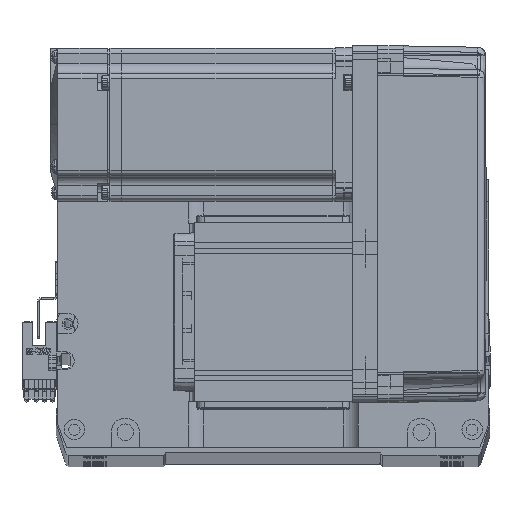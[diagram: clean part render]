
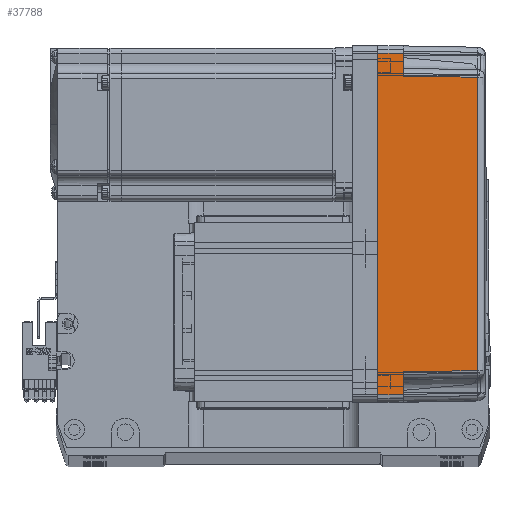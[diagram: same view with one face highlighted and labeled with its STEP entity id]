
A CAD part, top view. The second image highlights one B-rep face of the part: STEP entity #37788.
In plain terms, the highlighted planar face has unit normal (0.018, 0, 1) as drawn and (0, -1, 0.017) by its records, which use the part's own axes.
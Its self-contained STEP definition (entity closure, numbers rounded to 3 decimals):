
#1311 = VECTOR ( 'NONE', #25634, 1000. ) ;
#2130 = LINE ( 'NONE', #47197, #1311 ) ;
#2901 = PLANE ( 'NONE',  #39842 ) ;
#4409 = CARTESIAN_POINT ( 'NONE',  ( -67., -36., 0. ) ) ;
#5795 = DIRECTION ( 'NONE',  ( -1., 0., 0. ) ) ;
#5860 = DIRECTION ( 'NONE',  ( 0.017, 0.017, 1. ) ) ;
#8706 = ORIENTED_EDGE ( 'NONE', *, *, #38529, .F. ) ;
#9979 = EDGE_CURVE ( 'NONE', #25832, #21481, #37326, .T. ) ;
#10510 = DIRECTION ( 'NONE',  ( -0.017, -0.017, -1. ) ) ;
#11776 = VERTEX_POINT ( 'NONE', #24142 ) ;
#12049 = VECTOR ( 'NONE', #64057, 1000. ) ;
#13278 = VECTOR ( 'NONE', #10510, 1000. ) ;
#14089 = CARTESIAN_POINT ( 'NONE',  ( 58., -35.825, 10. ) ) ;
#15241 = CARTESIAN_POINT ( 'NONE',  ( 70., -35.825, 10. ) ) ;
#17927 = CARTESIAN_POINT ( 'NONE',  ( 70., -35.825, 10. ) ) ;
#18471 = VECTOR ( 'NONE', #46880, 1000. ) ;
#19734 = CARTESIAN_POINT ( 'NONE',  ( 57.495, -35.32, 38.985 ) ) ;
#21481 = VERTEX_POINT ( 'NONE', #14089 ) ;
#21605 = LINE ( 'NONE', #26383, #13278 ) ;
#21792 = ORIENTED_EDGE ( 'NONE', *, *, #37518, .T. ) ;
#23613 = VECTOR ( 'NONE', #5795, 1000. ) ;
#24142 = CARTESIAN_POINT ( 'NONE',  ( -66.826, -35.825, 10. ) ) ;
#25457 = ORIENTED_EDGE ( 'NONE', *, *, #66536, .T. ) ;
#25634 = DIRECTION ( 'NONE',  ( -0.017, 0.017, 1. ) ) ;
#25832 = VERTEX_POINT ( 'NONE', #32042 ) ;
#26383 = CARTESIAN_POINT ( 'NONE',  ( -57.495, -35.32, 38.985 ) ) ;
#26495 = CARTESIAN_POINT ( 'NONE',  ( -19.165, -35.316, 39.181 ) ) ;
#28988 = EDGE_LOOP ( 'NONE', ( #25457, #64066, #21792, #54366, #50915, #59356, #37335, #8706 ) ) ;
#29079 = CARTESIAN_POINT ( 'NONE',  ( -57.495, -35.32, 38.985 ) ) ;
#30392 = VERTEX_POINT ( 'NONE', #29079 ) ;
#31656 = CARTESIAN_POINT ( 'NONE',  ( 57.495, -35.32, 38.985 ) ) ;
#32042 = CARTESIAN_POINT ( 'NONE',  ( 66.826, -35.825, 10. ) ) ;
#33287 = EDGE_CURVE ( 'NONE', #30392, #37253, #21605, .T. ) ;
#33611 = DIRECTION ( 'NONE',  ( -1., 0., 0. ) ) ;
#33650 = VECTOR ( 'NONE', #5860, 1000. ) ;
#36350 = LINE ( 'NONE', #53271, #12049 ) ;
#37011 = LINE ( 'NONE', #53790, #33650 ) ;
#37253 = VERTEX_POINT ( 'NONE', #65682 ) ;
#37326 = LINE ( 'NONE', #17927, #59972 ) ;
#37335 = ORIENTED_EDGE ( 'NONE', *, *, #45048, .F. ) ;
#37518 = EDGE_CURVE ( 'NONE', #21481, #65982, #36350, .T. ) ;
#37788 = ADVANCED_FACE ( 'NONE', ( #67327 ), #2901, .T. ) ;
#38529 = EDGE_CURVE ( 'NONE', #68749, #61625, #46291, .T. ) ;
#39842 = AXIS2_PLACEMENT_3D ( 'NONE', #55755, #66997, #40264 ) ;
#40264 = DIRECTION ( 'NONE',  ( 0., -0.017, -1. ) ) ;
#41916 = LINE ( 'NONE', #15241, #18471 ) ;
#45048 = EDGE_CURVE ( 'NONE', #61625, #11776, #37011, .T. ) ;
#45826 = EDGE_CURVE ( 'NONE', #65982, #30392, #58824, .T. ) ;
#45839 = EDGE_CURVE ( 'NONE', #37253, #11776, #41916, .T. ) ;
#46291 = LINE ( 'NONE', #59591, #23613 ) ;
#46880 = DIRECTION ( 'NONE',  ( -1., 0., 0. ) ) ;
#47197 = CARTESIAN_POINT ( 'NONE',  ( 67., -36., 0. ) ) ;
#47365 = CARTESIAN_POINT ( 'NONE',  ( 19.165, -35.316, 39.181 ) ) ;
#48574 = CARTESIAN_POINT ( 'NONE',  ( 67., -36., 0. ) ) ;
#50915 = ORIENTED_EDGE ( 'NONE', *, *, #33287, .T. ) ;
#53271 = CARTESIAN_POINT ( 'NONE',  ( 58., -35.825, 10. ) ) ;
#53790 = CARTESIAN_POINT ( 'NONE',  ( -66.959, -35.958, 2.39 ) ) ;
#54366 = ORIENTED_EDGE ( 'NONE', *, *, #45826, .T. ) ;
#55755 = CARTESIAN_POINT ( 'NONE',  ( 70., -36., 0. ) ) ;
#58824 = B_SPLINE_CURVE_WITH_KNOTS ( 'NONE', 3,
 ( #31656, #47365, #26495, #69126 ),
 .UNSPECIFIED., .F., .F.,
 ( 4, 4 ),
 ( 0., 1. ),
 .UNSPECIFIED. ) ;
#59356 = ORIENTED_EDGE ( 'NONE', *, *, #45839, .T. ) ;
#59591 = CARTESIAN_POINT ( 'NONE',  ( 0., -36., 0. ) ) ;
#59972 = VECTOR ( 'NONE', #33611, 1000. ) ;
#61625 = VERTEX_POINT ( 'NONE', #4409 ) ;
#64057 = DIRECTION ( 'NONE',  ( -0.017, 0.017, 1. ) ) ;
#64066 = ORIENTED_EDGE ( 'NONE', *, *, #9979, .T. ) ;
#65682 = CARTESIAN_POINT ( 'NONE',  ( -58., -35.825, 10. ) ) ;
#65982 = VERTEX_POINT ( 'NONE', #19734 ) ;
#66536 = EDGE_CURVE ( 'NONE', #68749, #25832, #2130, .T. ) ;
#66997 = DIRECTION ( 'NONE',  ( 0., -1., 0.017 ) ) ;
#67327 = FACE_OUTER_BOUND ( 'NONE', #28988, .T. ) ;
#68749 = VERTEX_POINT ( 'NONE', #48574 ) ;
#69126 = CARTESIAN_POINT ( 'NONE',  ( -57.495, -35.32, 38.985 ) ) ;
